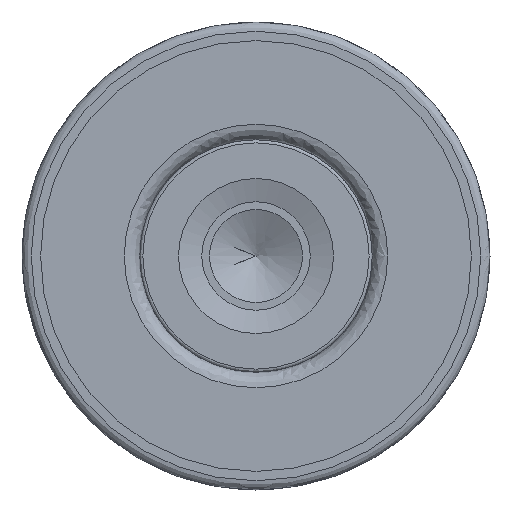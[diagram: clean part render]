
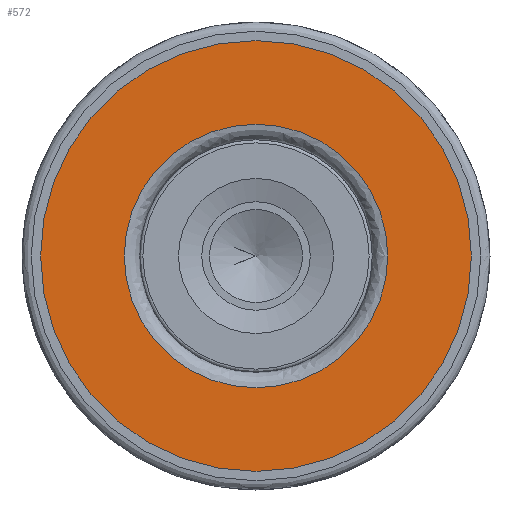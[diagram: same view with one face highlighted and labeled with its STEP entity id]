
A CAD part, front view. The second image highlights one B-rep face of the part: STEP entity #572.
In plain terms, the highlighted planar face has unit normal (0, -1, 0).
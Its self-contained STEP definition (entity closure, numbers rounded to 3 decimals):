
#512=CARTESIAN_POINT('',(-19.643,16.395,0.0));
#513=VERTEX_POINT('',#512);
#521=CARTESIAN_POINT('',(-28.148,16.395,0.0));
#522=VERTEX_POINT('',#521);
#523=CARTESIAN_POINT('',(-23.896,16.395,0.0));
#524=DIRECTION('',(0.0,-1.0,0.0));
#525=DIRECTION('',(1.0,0.0,0.0));
#526=AXIS2_PLACEMENT_3D('',#523,#524,#525);
#527=CIRCLE('',#526,4.252);
#528=EDGE_CURVE('',#513,#522,#527,.T.);
#530=CARTESIAN_POINT('',(-23.896,16.395,0.0));
#531=DIRECTION('',(0.0,-1.0,0.0));
#532=DIRECTION('',(1.0,0.0,0.0));
#533=AXIS2_PLACEMENT_3D('',#530,#531,#532);
#534=CIRCLE('',#533,4.252);
#535=EDGE_CURVE('',#522,#513,#534,.T.);
#543=CARTESIAN_POINT('',(-37.8,16.395,-13.905));
#544=DIRECTION('',(0.0,1.0,0.0));
#545=DIRECTION('',(0.0,0.0,1.0));
#546=AXIS2_PLACEMENT_3D('',#543,#544,#545);
#547=PLANE('',#546);
#548=CARTESIAN_POINT('',(-16.943,16.395,0.0));
#549=VERTEX_POINT('',#548);
#550=CARTESIAN_POINT('',(-30.848,16.395,0.0));
#551=VERTEX_POINT('',#550);
#552=CARTESIAN_POINT('',(-23.896,16.395,0.0));
#553=DIRECTION('',(0.0,-1.0,0.0));
#554=DIRECTION('',(1.0,0.0,0.0));
#555=AXIS2_PLACEMENT_3D('',#552,#553,#554);
#556=CIRCLE('',#555,6.952);
#557=EDGE_CURVE('',#549,#551,#556,.T.);
#558=ORIENTED_EDGE('',*,*,#557,.T.);
#559=CARTESIAN_POINT('',(-23.896,16.395,0.0));
#560=DIRECTION('',(0.0,-1.0,0.0));
#561=DIRECTION('',(1.0,0.0,0.0));
#562=AXIS2_PLACEMENT_3D('',#559,#560,#561);
#563=CIRCLE('',#562,6.952);
#564=EDGE_CURVE('',#551,#549,#563,.T.);
#565=ORIENTED_EDGE('',*,*,#564,.T.);
#566=EDGE_LOOP('',(#558,#565));
#567=FACE_OUTER_BOUND('',#566,.T.);
#568=ORIENTED_EDGE('',*,*,#535,.F.);
#569=ORIENTED_EDGE('',*,*,#528,.F.);
#570=EDGE_LOOP('',(#568,#569));
#571=FACE_BOUND('',#570,.T.);
#572=ADVANCED_FACE('',(#567,#571),#547,.F.);
